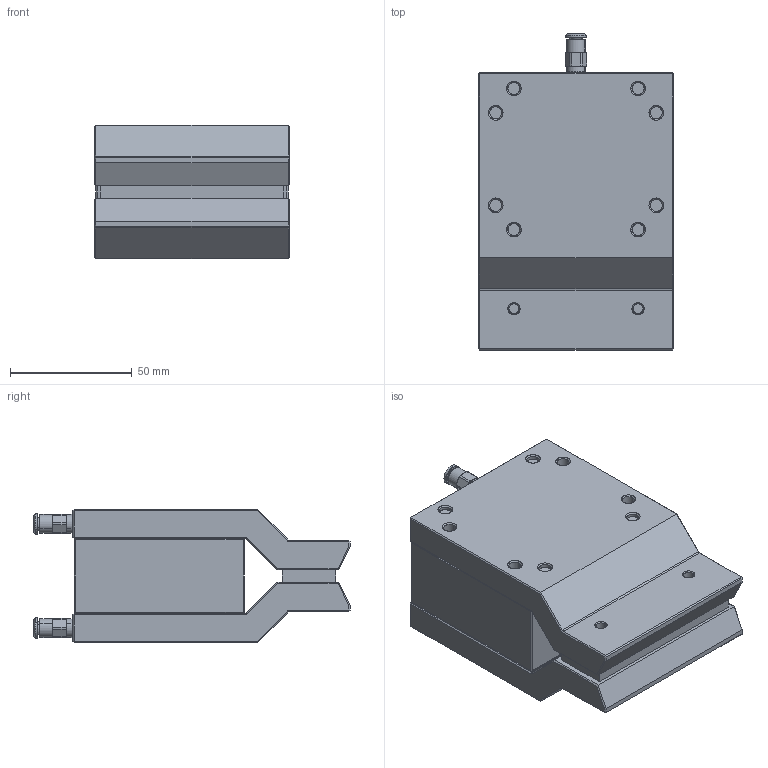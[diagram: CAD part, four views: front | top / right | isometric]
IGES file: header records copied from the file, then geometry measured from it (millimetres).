
Start section: SolidWorks IGES file using analytic representation for surfaces
Global section: file name: C:\PDM\Projects\Magneetit\MRP-D50 NKR\MRP-20NK 3d-models\MRP-28NK 3d-model.IGS; native system: SolidWorks 2017; preprocessor: SolidWorks 2017; author: juho.suominen; date: 180507.140635; units: millimetre
Bounding box: 80 x 130 x 54.8 mm (x, y, z)
Surface area: 48702.7 mm2 (no closed solid volume)
Topology: 0 solids, 0 shells, 512 faces, 5072 edges, 5050 vertices
Faces by surface type: revolution 258, bspline 254
